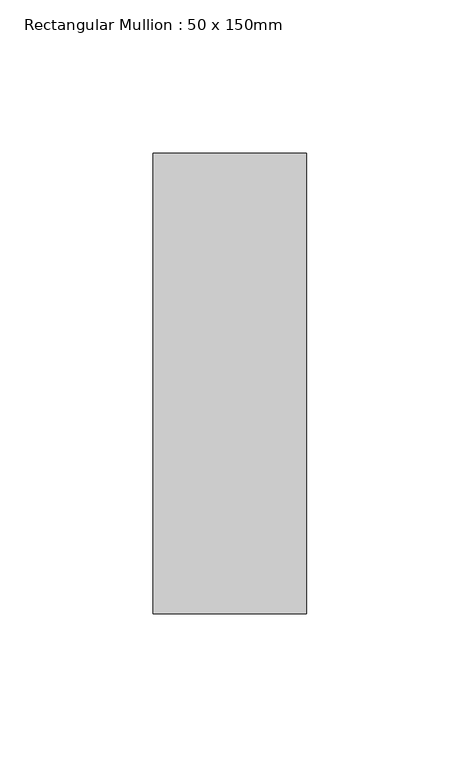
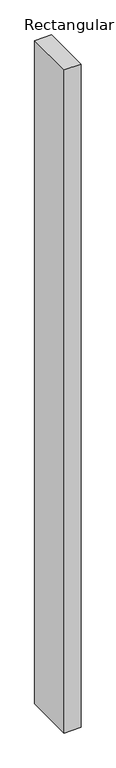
"""IFC4 building model written with IfcOpenShell, lengths in millimetres: member geometry, Rectangular Mullion : 50 x 150mm."""

from ifc_helpers import new_model, si_unit, frame, origin, place, context, project, spatial, polyline, outline, extrude, source, transform, mapped, element, save


def rectangular_mullion_50_x_150mm_e05598f6(model_context):
    return source(origin(), model_context, "Body", "SweptSolid", [
        extrude(outline(polyline([(25.0, 75.0), (25.0, -75.0), (-25.0, -75.0), (-25.0, 75.0), (25.0, 75.0)])), frame((0.0, 0.0, -2062.3775876), z_axis=(0.0, 0.0, 1.0), x_axis=(1.0, 0.0, 0.0)), (0.0, 0.0, 1.0), 2062.3775876),
    ])


if __name__ == "__main__":
    model = new_model("IFC4")
    model_context = context("Model", 3, world=origin())
    ifc_project = project(units=[si_unit("LENGTHUNIT", "METRE", prefix="MILLI")], contexts=[model_context])
    site = spatial("IfcSite", under=ifc_project)
    building = spatial("IfcBuilding", under=site)
    placement = place(None, origin())
    rectangular_mullion_50_x_150mm_shape = rectangular_mullion_50_x_150mm_e05598f6(model_context)
    element("IfcMember", 1, ObjectType="Rectangular Mullion : 50 x 150mm", at=placement, inside=building, context=model_context, shape_type="MappedRepresentation", body=[
        mapped(rectangular_mullion_50_x_150mm_shape, transform((0.0, 0.0, 0.0), x_axis=(1.0, 0.0, 0.0), y_axis=(0.0, 1.0, 0.0), z_axis=(0.0, 0.0, 1.0))),
    ])
    save(model, "model.ifc")
